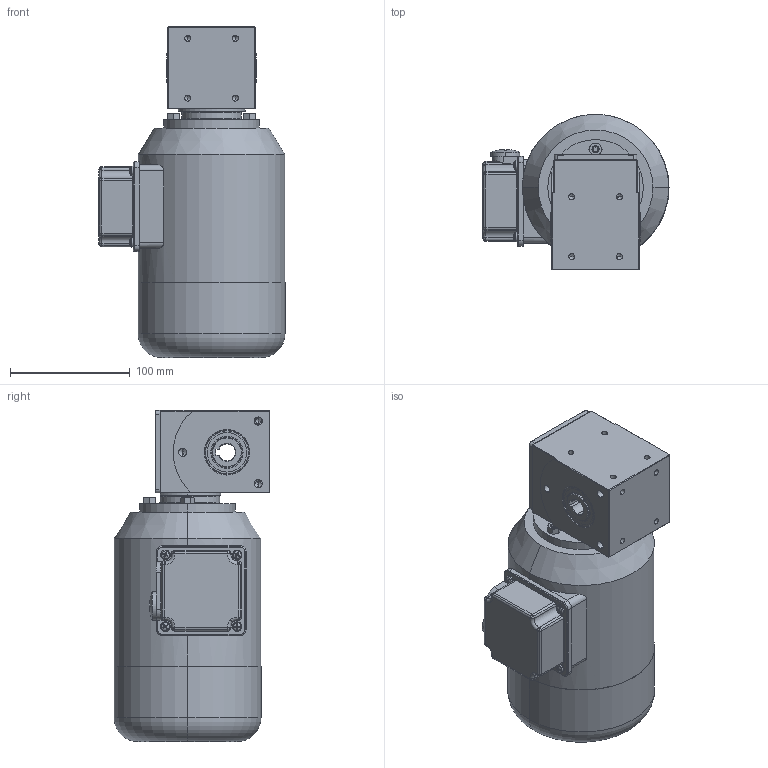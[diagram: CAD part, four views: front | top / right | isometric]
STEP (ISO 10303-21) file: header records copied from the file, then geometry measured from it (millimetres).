
FILE_DESCRIPTION (( 'STEP AP214' ), '1' );
FILE_NAME ('SN14H_120W_250W_Drehstrom-Motor_C.STEP', '2022-08-01T09:00:44', ( '' ), ( '' ), 'SwSTEP 2.0', 'SolidWorks 2021', '' );
FILE_SCHEMA (( 'AUTOMOTIVE_DESIGN' ));
Length unit declared in the file: millimetre
Products named in the file (10): 14H-G-001_3D-Export; SN14H_3D-Export; SN14H_120W_250W_Drehstrom-Motor_C; socket set screw flat point_iso_ISO 4026 - M6 x 20-C; hex nut style 1 gradeab_iso_ISO - 4032 - M6 - D - C; 03-M-268 I 250W_2800Upm; NBR_WDR_25x37x7; 04B-D-003; 03BH-W-002_3D-Export; hexa csunk flathd screw_iso_ISO 14581 M5x12x12-C
Assembly tree (17 placements, depth 3):
  SN14H_120W_250W_Drehstrom-Motor_C
    SN14H_3D-Export
      14H-G-001_3D-Export
      04B-D-003
      03BH-W-002_3D-Export
      NBR_WDR_25x37x7  x2
      hexa csunk flathd screw_iso_ISO 14581 M5x12x12-C  x4
      socket set screw flat point_iso_ISO 4026 - M6 x 20-C  x3
      hex nut style 1 gradeab_iso_ISO - 4032 - M6 - D - C  x3
    03-M-268 I 250W_2800Upm
Bounding box: 155.7 x 130.5 x 277 mm (x, y, z)
Volume: 2737233.2 mm3; surface area: 212352 mm2
Topology: 17 solids, 17 shells, 918 faces, 2321 edges, 1412 vertices
Faces by surface type: cylinder 338, cone 238, plane 200, torus 111, sphere 24, bspline 7
Entity records: 24317 total; most frequent: CARTESIAN_POINT 6199, DIRECTION 3925, ORIENTED_EDGE 3626, EDGE_CURVE 1813, AXIS2_PLACEMENT_3D 1645, VERTEX_POINT 1136, CIRCLE 910, EDGE_LOOP 781
